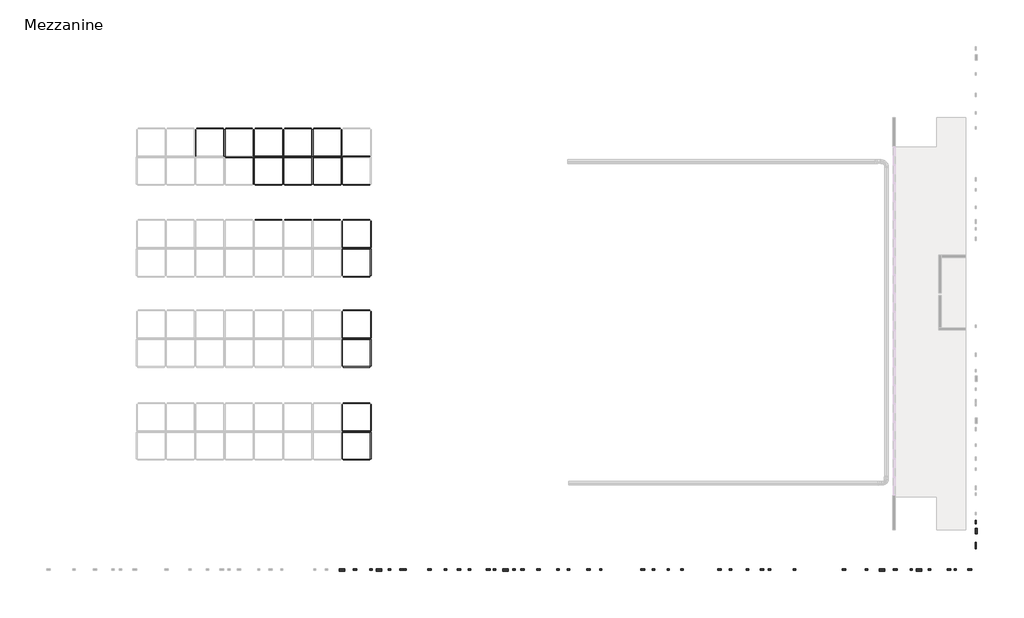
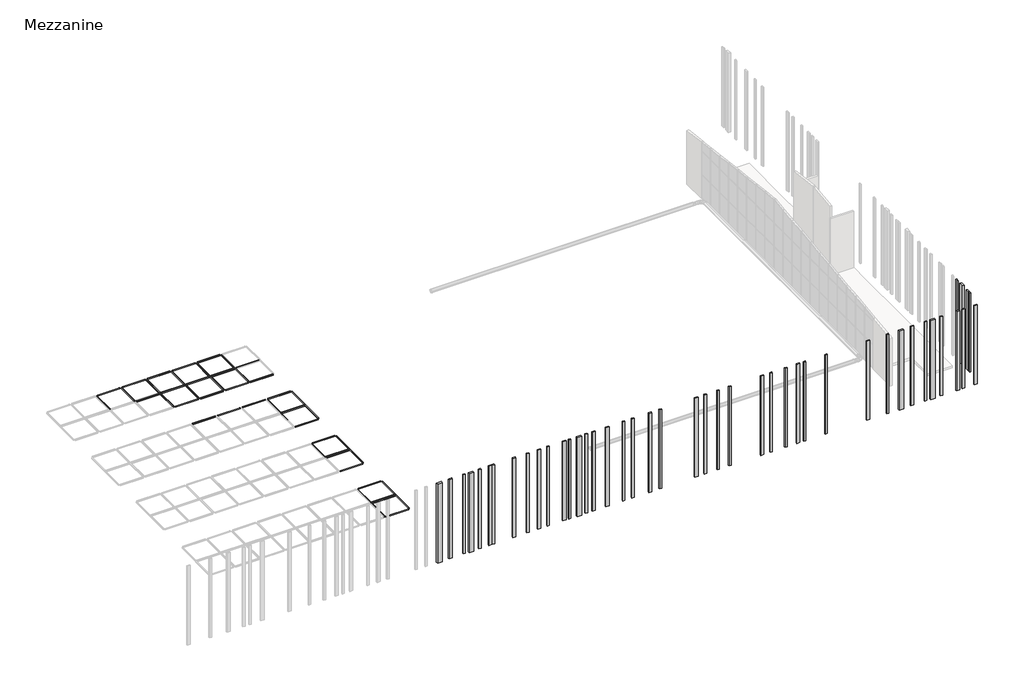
# One storey, part 5 of 7: 62 beams, 45 columns.
"""IFC4 building model written with IfcOpenShell, lengths in millimetres."""

from ifc_helpers import new_model, si_unit, frame, origin, place, context, project, spatial, polyline, outline, extrude, transform, mapped, element, save
from components import timber_gauged_nz_100_x_50_718b6390, timber_gauged_nz_100_x_50_7774ab14, timber_gauged_nz_100_x_50_7b7bee40, timber_gauged_nz_100_x_50_6be5a70a, columns_rectangular_200x200_white_1cd67d43, columns_rectangular_300x300_73db2975, columns_rectangular_450x450mm_7ab9ced3

model = new_model("IFC4")

# Units and contexts
model_context = context("Model", 3, world=origin())
ifc_project = project(units=[si_unit("LENGTHUNIT", "METRE", prefix="MILLI")], contexts=[model_context])

# Site, building, storey
site = spatial("IfcSite", under=ifc_project)
building = spatial("IfcBuilding", under=site)
storey = spatial("IfcBuildingStorey", under=building, Name="Mezzanine", Elevation=5800.0)

# Beams
placement = place(None, origin())
timber_gauged_nz_100_x_50_shape = timber_gauged_nz_100_x_50_718b6390(model_context)
element("IfcBeam", 1, ObjectType="Timber Gauged (NZ) : 100 x 50", at=placement, inside=storey, context=model_context, shape_type="MappedRepresentation", body=[
    mapped(timber_gauged_nz_100_x_50_shape, transform((-62818.8056755, -25111.9011548, 4853.0), x_axis=(1.0, 0.0, 0.0), y_axis=(0.0, 1.0, 0.0), z_axis=(0.0, 0.0, 1.0))),
])
element("IfcBeam", 2, ObjectType="Timber Gauged (NZ) : 100 x 50", at=placement, inside=storey, context=model_context, shape_type="MappedRepresentation", body=[
    mapped(timber_gauged_nz_100_x_50_shape, transform((-62791.8056755, -25182.1175809, 4853.0), x_axis=(-1.0, 0.0, 0.0), y_axis=(0.0, -1.0, 0.0), z_axis=(0.0, 0.0, 1.0))),
])
element("IfcBeam", 3, ObjectType="Timber Gauged (NZ) : 100 x 50", at=placement, inside=storey, context=model_context, shape_type="MappedRepresentation", body=[
    mapped(timber_gauged_nz_100_x_50_shape, transform((-62818.8056755, -17511.9011548, 4853.0), x_axis=(1.0, 0.0, 0.0), y_axis=(0.0, 1.0, 0.0), z_axis=(0.0, 0.0, 1.0))),
])
element("IfcBeam", 4, ObjectType="Timber Gauged (NZ) : 100 x 50", at=placement, inside=storey, context=model_context, shape_type="MappedRepresentation", body=[
    mapped(timber_gauged_nz_100_x_50_shape, transform((-62791.8056755, -17582.1175809, 4853.0), x_axis=(-1.0, 0.0, 0.0), y_axis=(0.0, -1.0, 0.0), z_axis=(0.0, 0.0, 1.0))),
])
element("IfcBeam", 5, ObjectType="Timber Gauged (NZ) : 100 x 50", at=placement, inside=storey, context=model_context, shape_type="MappedRepresentation", body=[
    mapped(timber_gauged_nz_100_x_50_shape, transform((-62818.8056755, -10111.9011548, 4853.0), x_axis=(1.0, 0.0, 0.0), y_axis=(0.0, 1.0, 0.0), z_axis=(0.0, 0.0, 1.0))),
])
element("IfcBeam", 6, ObjectType="Timber Gauged (NZ) : 100 x 50", at=placement, inside=storey, context=model_context, shape_type="MappedRepresentation", body=[
    mapped(timber_gauged_nz_100_x_50_shape, transform((-62791.8056755, -10182.1175809, 4853.0), x_axis=(-1.0, 0.0, 0.0), y_axis=(0.0, -1.0, 0.0), z_axis=(0.0, 0.0, 1.0))),
])
element("IfcBeam", 7, ObjectType="Timber Gauged (NZ) : 100 x 50", at=placement, inside=storey, context=model_context, shape_type="MappedRepresentation", body=[
    mapped(timber_gauged_nz_100_x_50_shape, transform((-70007.5056755, -2611.9011548, 4853.0), x_axis=(1.0, 0.0, 0.0), y_axis=(0.0, 1.0, 0.0), z_axis=(0.0, 0.0, 1.0))),
])
element("IfcBeam", 8, ObjectType="Timber Gauged (NZ) : 100 x 50", at=placement, inside=storey, context=model_context, shape_type="MappedRepresentation", body=[
    mapped(timber_gauged_nz_100_x_50_shape, transform((-67603.1556755, -2611.9011548, 4853.0), x_axis=(1.0, 0.0, 0.0), y_axis=(0.0, 1.0, 0.0), z_axis=(0.0, 0.0, 1.0))),
])
element("IfcBeam", 9, ObjectType="Timber Gauged (NZ) : 100 x 50", at=placement, inside=storey, context=model_context, shape_type="MappedRepresentation", body=[
    mapped(timber_gauged_nz_100_x_50_shape, transform((-65198.8056755, -2611.9011548, 4853.0), x_axis=(1.0, 0.0, 0.0), y_axis=(0.0, 1.0, 0.0), z_axis=(0.0, 0.0, 1.0))),
])
element("IfcBeam", 10, ObjectType="Timber Gauged (NZ) : 100 x 50", at=placement, inside=storey, context=model_context, shape_type="MappedRepresentation", body=[
    mapped(timber_gauged_nz_100_x_50_shape, transform((-62818.8056755, -2611.9011548, 4853.0), x_axis=(1.0, 0.0, 0.0), y_axis=(0.0, 1.0, 0.0), z_axis=(0.0, 0.0, 1.0))),
])
element("IfcBeam", 11, ObjectType="Timber Gauged (NZ) : 100 x 50", at=placement, inside=storey, context=model_context, shape_type="MappedRepresentation", body=[
    mapped(timber_gauged_nz_100_x_50_shape, transform((-65196.1556755, -2682.1175809, 4853.0), x_axis=(-1.0, 0.0, 0.0), y_axis=(0.0, -1.0, 0.0), z_axis=(0.0, 0.0, 1.0))),
])
element("IfcBeam", 12, ObjectType="Timber Gauged (NZ) : 100 x 50", at=placement, inside=storey, context=model_context, shape_type="MappedRepresentation", body=[
    mapped(timber_gauged_nz_100_x_50_shape, transform((-67591.8056755, -2682.1175809, 4853.0), x_axis=(-1.0, 0.0, 0.0), y_axis=(0.0, -1.0, 0.0), z_axis=(0.0, 0.0, 1.0))),
])
element("IfcBeam", 13, ObjectType="Timber Gauged (NZ) : 100 x 50", at=placement, inside=storey, context=model_context, shape_type="MappedRepresentation", body=[
    mapped(timber_gauged_nz_100_x_50_shape, transform((-69991.8056755, -2682.1175809, 4853.0), x_axis=(-1.0, 0.0, 0.0), y_axis=(0.0, -1.0, 0.0), z_axis=(0.0, 0.0, 1.0))),
])
element("IfcBeam", 14, ObjectType="Timber Gauged (NZ) : 100 x 50", at=placement, inside=storey, context=model_context, shape_type="MappedRepresentation", body=[
    mapped(timber_gauged_nz_100_x_50_shape, transform((-72391.8056755, -2682.1175809, 4853.0), x_axis=(-1.0, 0.0, 0.0), y_axis=(0.0, -1.0, 0.0), z_axis=(0.0, 0.0, 1.0))),
])
timber_gauged_nz_100_x_50_2_shape = timber_gauged_nz_100_x_50_7774ab14(model_context)
element("IfcBeam", 15, ObjectType="Timber Gauged (NZ) : 100 x 50", at=placement, inside=storey, context=model_context, shape_type="MappedRepresentation", body=[
    mapped(timber_gauged_nz_100_x_50_2_shape, transform((-62806.3056755, -27464.9011548, 4853.0), x_axis=(1.0, 0.0, 0.0), y_axis=(0.0, 1.0, 0.0), z_axis=(0.0, 0.0, 1.0))),
])
element("IfcBeam", 16, ObjectType="Timber Gauged (NZ) : 100 x 50", at=placement, inside=storey, context=model_context, shape_type="MappedRepresentation", body=[
    mapped(timber_gauged_nz_100_x_50_2_shape, transform((-62804.3056755, -22829.1175809, 4853.0), x_axis=(-1.0, 0.0, 0.0), y_axis=(0.0, -1.0, 0.0), z_axis=(0.0, 0.0, 1.0))),
])
element("IfcBeam", 17, ObjectType="Timber Gauged (NZ) : 100 x 50", at=placement, inside=storey, context=model_context, shape_type="MappedRepresentation", body=[
    mapped(timber_gauged_nz_100_x_50_2_shape, transform((-62806.3056755, -19864.9011548, 4853.0), x_axis=(1.0, 0.0, 0.0), y_axis=(0.0, 1.0, 0.0), z_axis=(0.0, 0.0, 1.0))),
])
element("IfcBeam", 18, ObjectType="Timber Gauged (NZ) : 100 x 50", at=placement, inside=storey, context=model_context, shape_type="MappedRepresentation", body=[
    mapped(timber_gauged_nz_100_x_50_2_shape, transform((-62804.3056755, -15229.1175809, 4853.0), x_axis=(-1.0, 0.0, 0.0), y_axis=(0.0, -1.0, 0.0), z_axis=(0.0, 0.0, 1.0))),
])
element("IfcBeam", 19, ObjectType="Timber Gauged (NZ) : 100 x 50", at=placement, inside=storey, context=model_context, shape_type="MappedRepresentation", body=[
    mapped(timber_gauged_nz_100_x_50_2_shape, transform((-62806.3056755, -12464.9011548, 4853.0), x_axis=(1.0, 0.0, 0.0), y_axis=(0.0, 1.0, 0.0), z_axis=(0.0, 0.0, 1.0))),
])
element("IfcBeam", 20, ObjectType="Timber Gauged (NZ) : 100 x 50", at=placement, inside=storey, context=model_context, shape_type="MappedRepresentation", body=[
    mapped(timber_gauged_nz_100_x_50_2_shape, transform((-62804.3056755, -7829.1175809, 4853.0), x_axis=(-1.0, 0.0, 0.0), y_axis=(0.0, -1.0, 0.0), z_axis=(0.0, 0.0, 1.0))),
])
element("IfcBeam", 21, ObjectType="Timber Gauged (NZ) : 100 x 50", at=placement, inside=storey, context=model_context, shape_type="MappedRepresentation", body=[
    mapped(timber_gauged_nz_100_x_50_2_shape, transform((-65208.6556755, -7829.1175809, 4853.0), x_axis=(-1.0, 0.0, 0.0), y_axis=(0.0, -1.0, 0.0), z_axis=(0.0, 0.0, 1.0))),
])
element("IfcBeam", 22, ObjectType="Timber Gauged (NZ) : 100 x 50", at=placement, inside=storey, context=model_context, shape_type="MappedRepresentation", body=[
    mapped(timber_gauged_nz_100_x_50_2_shape, transform((-67604.3056755, -7829.1175809, 4853.0), x_axis=(-1.0, 0.0, 0.0), y_axis=(0.0, -1.0, 0.0), z_axis=(0.0, 0.0, 1.0))),
])
element("IfcBeam", 23, ObjectType="Timber Gauged (NZ) : 100 x 50", at=placement, inside=storey, context=model_context, shape_type="MappedRepresentation", body=[
    mapped(timber_gauged_nz_100_x_50_2_shape, transform((-70004.3056755, -7829.1175809, 4853.0), x_axis=(-1.0, 0.0, 0.0), y_axis=(0.0, -1.0, 0.0), z_axis=(0.0, 0.0, 1.0))),
])
element("IfcBeam", 24, ObjectType="Timber Gauged (NZ) : 100 x 50", at=placement, inside=storey, context=model_context, shape_type="MappedRepresentation", body=[
    mapped(timber_gauged_nz_100_x_50_2_shape, transform((-69995.0056755, -4964.9011548, 4853.0), x_axis=(1.0, 0.0, 0.0), y_axis=(0.0, 1.0, 0.0), z_axis=(0.0, 0.0, 1.0))),
])
element("IfcBeam", 25, ObjectType="Timber Gauged (NZ) : 100 x 50", at=placement, inside=storey, context=model_context, shape_type="MappedRepresentation", body=[
    mapped(timber_gauged_nz_100_x_50_2_shape, transform((-67590.6556755, -4964.9011548, 4853.0), x_axis=(1.0, 0.0, 0.0), y_axis=(0.0, 1.0, 0.0), z_axis=(0.0, 0.0, 1.0))),
])
element("IfcBeam", 26, ObjectType="Timber Gauged (NZ) : 100 x 50", at=placement, inside=storey, context=model_context, shape_type="MappedRepresentation", body=[
    mapped(timber_gauged_nz_100_x_50_2_shape, transform((-65186.3056755, -4964.9011548, 4853.0), x_axis=(1.0, 0.0, 0.0), y_axis=(0.0, 1.0, 0.0), z_axis=(0.0, 0.0, 1.0))),
])
element("IfcBeam", 27, ObjectType="Timber Gauged (NZ) : 100 x 50", at=placement, inside=storey, context=model_context, shape_type="MappedRepresentation", body=[
    mapped(timber_gauged_nz_100_x_50_2_shape, transform((-62806.3056755, -4964.9011548, 4853.0), x_axis=(1.0, 0.0, 0.0), y_axis=(0.0, 1.0, 0.0), z_axis=(0.0, 0.0, 1.0))),
])
element("IfcBeam", 28, ObjectType="Timber Gauged (NZ) : 100 x 50", at=placement, inside=storey, context=model_context, shape_type="MappedRepresentation", body=[
    mapped(timber_gauged_nz_100_x_50_2_shape, transform((-65208.6556755, -329.1175809, 4853.0), x_axis=(-1.0, 0.0, 0.0), y_axis=(0.0, -1.0, 0.0), z_axis=(0.0, 0.0, 1.0))),
])
element("IfcBeam", 29, ObjectType="Timber Gauged (NZ) : 100 x 50", at=placement, inside=storey, context=model_context, shape_type="MappedRepresentation", body=[
    mapped(timber_gauged_nz_100_x_50_2_shape, transform((-67604.3056755, -329.1175809, 4853.0), x_axis=(-1.0, 0.0, 0.0), y_axis=(0.0, -1.0, 0.0), z_axis=(0.0, 0.0, 1.0))),
])
element("IfcBeam", 30, ObjectType="Timber Gauged (NZ) : 100 x 50", at=placement, inside=storey, context=model_context, shape_type="MappedRepresentation", body=[
    mapped(timber_gauged_nz_100_x_50_2_shape, transform((-70004.3056755, -329.1175809, 4853.0), x_axis=(-1.0, 0.0, 0.0), y_axis=(0.0, -1.0, 0.0), z_axis=(0.0, 0.0, 1.0))),
])
element("IfcBeam", 31, ObjectType="Timber Gauged (NZ) : 100 x 50", at=placement, inside=storey, context=model_context, shape_type="MappedRepresentation", body=[
    mapped(timber_gauged_nz_100_x_50_2_shape, transform((-72404.3056755, -329.1175809, 4853.0), x_axis=(-1.0, 0.0, 0.0), y_axis=(0.0, -1.0, 0.0), z_axis=(0.0, 0.0, 1.0))),
])
element("IfcBeam", 32, ObjectType="Timber Gauged (NZ) : 100 x 50", at=placement, inside=storey, context=model_context, shape_type="MappedRepresentation", body=[
    mapped(timber_gauged_nz_100_x_50_2_shape, transform((-74808.6556755, -329.1175809, 4853.0), x_axis=(-1.0, 0.0, 0.0), y_axis=(0.0, -1.0, 0.0), z_axis=(0.0, 0.0, 1.0))),
])
timber_gauged_nz_100_x_50_3_shape = timber_gauged_nz_100_x_50_7b7bee40(model_context)
element("IfcBeam", 33, ObjectType="Timber Gauged (NZ) : 100 x 50", at=placement, inside=storey, context=model_context, shape_type="MappedRepresentation", body=[
    mapped(timber_gauged_nz_100_x_50_3_shape, transform((-63987.4556755, -26344.9011548, 4853.0), x_axis=(0.0, -1.0, 0.0), y_axis=(1.0, 0.0, 0.0), z_axis=(0.0, 0.0, 1.0))),
])
element("IfcBeam", 34, ObjectType="Timber Gauged (NZ) : 100 x 50", at=placement, inside=storey, context=model_context, shape_type="MappedRepresentation", body=[
    mapped(timber_gauged_nz_100_x_50_3_shape, transform((-61623.1556755, -23949.1175809, 4853.0), x_axis=(0.0, 1.0, 0.0), y_axis=(-1.0, 0.0, 0.0), z_axis=(0.0, 0.0, 1.0))),
])
element("IfcBeam", 35, ObjectType="Timber Gauged (NZ) : 100 x 50", at=placement, inside=storey, context=model_context, shape_type="MappedRepresentation", body=[
    mapped(timber_gauged_nz_100_x_50_3_shape, transform((-63987.4556755, -18744.9011548, 4853.0), x_axis=(0.0, -1.0, 0.0), y_axis=(1.0, 0.0, 0.0), z_axis=(0.0, 0.0, 1.0))),
])
element("IfcBeam", 36, ObjectType="Timber Gauged (NZ) : 100 x 50", at=placement, inside=storey, context=model_context, shape_type="MappedRepresentation", body=[
    mapped(timber_gauged_nz_100_x_50_3_shape, transform((-61623.1556755, -16349.1175809, 4853.0), x_axis=(0.0, 1.0, 0.0), y_axis=(-1.0, 0.0, 0.0), z_axis=(0.0, 0.0, 1.0))),
])
element("IfcBeam", 37, ObjectType="Timber Gauged (NZ) : 100 x 50", at=placement, inside=storey, context=model_context, shape_type="MappedRepresentation", body=[
    mapped(timber_gauged_nz_100_x_50_3_shape, transform((-63987.4556755, -11344.9011548, 4853.0), x_axis=(0.0, -1.0, 0.0), y_axis=(1.0, 0.0, 0.0), z_axis=(0.0, 0.0, 1.0))),
])
element("IfcBeam", 38, ObjectType="Timber Gauged (NZ) : 100 x 50", at=placement, inside=storey, context=model_context, shape_type="MappedRepresentation", body=[
    mapped(timber_gauged_nz_100_x_50_3_shape, transform((-61623.1556755, -8949.1175809, 4853.0), x_axis=(0.0, 1.0, 0.0), y_axis=(-1.0, 0.0, 0.0), z_axis=(0.0, 0.0, 1.0))),
])
element("IfcBeam", 39, ObjectType="Timber Gauged (NZ) : 100 x 50", at=placement, inside=storey, context=model_context, shape_type="MappedRepresentation", body=[
    mapped(timber_gauged_nz_100_x_50_3_shape, transform((-71176.1556755, -3844.9011548, 4853.0), x_axis=(0.0, -1.0, 0.0), y_axis=(1.0, 0.0, 0.0), z_axis=(0.0, 0.0, 1.0))),
])
element("IfcBeam", 40, ObjectType="Timber Gauged (NZ) : 100 x 50", at=placement, inside=storey, context=model_context, shape_type="MappedRepresentation", body=[
    mapped(timber_gauged_nz_100_x_50_3_shape, transform((-68771.8056755, -3844.9011548, 4853.0), x_axis=(0.0, -1.0, 0.0), y_axis=(1.0, 0.0, 0.0), z_axis=(0.0, 0.0, 1.0))),
])
element("IfcBeam", 41, ObjectType="Timber Gauged (NZ) : 100 x 50", at=placement, inside=storey, context=model_context, shape_type="MappedRepresentation", body=[
    mapped(timber_gauged_nz_100_x_50_3_shape, transform((-66367.4556755, -3844.9011548, 4853.0), x_axis=(0.0, -1.0, 0.0), y_axis=(1.0, 0.0, 0.0), z_axis=(0.0, 0.0, 1.0))),
])
element("IfcBeam", 42, ObjectType="Timber Gauged (NZ) : 100 x 50", at=placement, inside=storey, context=model_context, shape_type="MappedRepresentation", body=[
    mapped(timber_gauged_nz_100_x_50_3_shape, transform((-63987.4556755, -3844.9011548, 4853.0), x_axis=(0.0, -1.0, 0.0), y_axis=(1.0, 0.0, 0.0), z_axis=(0.0, 0.0, 1.0))),
])
element("IfcBeam", 43, ObjectType="Timber Gauged (NZ) : 100 x 50", at=placement, inside=storey, context=model_context, shape_type="MappedRepresentation", body=[
    mapped(timber_gauged_nz_100_x_50_3_shape, transform((-64027.5056755, -1449.1175809, 4853.0), x_axis=(0.0, 1.0, 0.0), y_axis=(-1.0, 0.0, 0.0), z_axis=(0.0, 0.0, 1.0))),
])
element("IfcBeam", 44, ObjectType="Timber Gauged (NZ) : 100 x 50", at=placement, inside=storey, context=model_context, shape_type="MappedRepresentation", body=[
    mapped(timber_gauged_nz_100_x_50_3_shape, transform((-66423.1556755, -1449.1175809, 4853.0), x_axis=(0.0, 1.0, 0.0), y_axis=(-1.0, 0.0, 0.0), z_axis=(0.0, 0.0, 1.0))),
])
element("IfcBeam", 45, ObjectType="Timber Gauged (NZ) : 100 x 50", at=placement, inside=storey, context=model_context, shape_type="MappedRepresentation", body=[
    mapped(timber_gauged_nz_100_x_50_3_shape, transform((-68823.1556755, -1449.1175809, 4853.0), x_axis=(0.0, 1.0, 0.0), y_axis=(-1.0, 0.0, 0.0), z_axis=(0.0, 0.0, 1.0))),
])
element("IfcBeam", 46, ObjectType="Timber Gauged (NZ) : 100 x 50", at=placement, inside=storey, context=model_context, shape_type="MappedRepresentation", body=[
    mapped(timber_gauged_nz_100_x_50_3_shape, transform((-71223.1556755, -1449.1175809, 4853.0), x_axis=(0.0, 1.0, 0.0), y_axis=(-1.0, 0.0, 0.0), z_axis=(0.0, 0.0, 1.0))),
])
element("IfcBeam", 47, ObjectType="Timber Gauged (NZ) : 100 x 50", at=placement, inside=storey, context=model_context, shape_type="MappedRepresentation", body=[
    mapped(timber_gauged_nz_100_x_50_3_shape, transform((-73627.5056755, -1449.1175809, 4853.0), x_axis=(0.0, 1.0, 0.0), y_axis=(-1.0, 0.0, 0.0), z_axis=(0.0, 0.0, 1.0))),
])
timber_gauged_nz_100_x_50_4_shape = timber_gauged_nz_100_x_50_6be5a70a(model_context)
element("IfcBeam", 48, ObjectType="Timber Gauged (NZ) : 100 x 50", at=placement, inside=storey, context=model_context, shape_type="MappedRepresentation", body=[
    mapped(timber_gauged_nz_100_x_50_4_shape, transform((-61634.4556755, -26264.7011548, 4853.0), x_axis=(0.0, -1.0, 0.0), y_axis=(1.0, 0.0, 0.0), z_axis=(0.0, 0.0, 1.0))),
])
element("IfcBeam", 49, ObjectType="Timber Gauged (NZ) : 100 x 50", at=placement, inside=storey, context=model_context, shape_type="MappedRepresentation", body=[
    mapped(timber_gauged_nz_100_x_50_4_shape, transform((-63976.1556755, -24029.3175809, 4853.0), x_axis=(0.0, 1.0, 0.0), y_axis=(-1.0, 0.0, 0.0), z_axis=(0.0, 0.0, 1.0))),
])
element("IfcBeam", 50, ObjectType="Timber Gauged (NZ) : 100 x 50", at=placement, inside=storey, context=model_context, shape_type="MappedRepresentation", body=[
    mapped(timber_gauged_nz_100_x_50_4_shape, transform((-61634.4556755, -18664.7011548, 4853.0), x_axis=(0.0, -1.0, 0.0), y_axis=(1.0, 0.0, 0.0), z_axis=(0.0, 0.0, 1.0))),
])
element("IfcBeam", 51, ObjectType="Timber Gauged (NZ) : 100 x 50", at=placement, inside=storey, context=model_context, shape_type="MappedRepresentation", body=[
    mapped(timber_gauged_nz_100_x_50_4_shape, transform((-63976.1556755, -16429.3175809, 4853.0), x_axis=(0.0, 1.0, 0.0), y_axis=(-1.0, 0.0, 0.0), z_axis=(0.0, 0.0, 1.0))),
])
element("IfcBeam", 52, ObjectType="Timber Gauged (NZ) : 100 x 50", at=placement, inside=storey, context=model_context, shape_type="MappedRepresentation", body=[
    mapped(timber_gauged_nz_100_x_50_4_shape, transform((-61634.4556755, -11264.7011548, 4853.0), x_axis=(0.0, -1.0, 0.0), y_axis=(1.0, 0.0, 0.0), z_axis=(0.0, 0.0, 1.0))),
])
element("IfcBeam", 53, ObjectType="Timber Gauged (NZ) : 100 x 50", at=placement, inside=storey, context=model_context, shape_type="MappedRepresentation", body=[
    mapped(timber_gauged_nz_100_x_50_4_shape, transform((-63976.1556755, -9029.3175809, 4853.0), x_axis=(0.0, 1.0, 0.0), y_axis=(-1.0, 0.0, 0.0), z_axis=(0.0, 0.0, 1.0))),
])
element("IfcBeam", 54, ObjectType="Timber Gauged (NZ) : 100 x 50", at=placement, inside=storey, context=model_context, shape_type="MappedRepresentation", body=[
    mapped(timber_gauged_nz_100_x_50_4_shape, transform((-71223.1556755, -3764.7011548, 4853.0), x_axis=(0.0, -1.0, 0.0), y_axis=(1.0, 0.0, 0.0), z_axis=(0.0, 0.0, 1.0))),
])
element("IfcBeam", 55, ObjectType="Timber Gauged (NZ) : 100 x 50", at=placement, inside=storey, context=model_context, shape_type="MappedRepresentation", body=[
    mapped(timber_gauged_nz_100_x_50_4_shape, transform((-68823.1556755, -3764.7011548, 4853.0), x_axis=(0.0, -1.0, 0.0), y_axis=(1.0, 0.0, 0.0), z_axis=(0.0, 0.0, 1.0))),
])
element("IfcBeam", 56, ObjectType="Timber Gauged (NZ) : 100 x 50", at=placement, inside=storey, context=model_context, shape_type="MappedRepresentation", body=[
    mapped(timber_gauged_nz_100_x_50_4_shape, transform((-66418.8056755, -3764.7011548, 4853.0), x_axis=(0.0, -1.0, 0.0), y_axis=(1.0, 0.0, 0.0), z_axis=(0.0, 0.0, 1.0))),
])
element("IfcBeam", 57, ObjectType="Timber Gauged (NZ) : 100 x 50", at=placement, inside=storey, context=model_context, shape_type="MappedRepresentation", body=[
    mapped(timber_gauged_nz_100_x_50_4_shape, transform((-64014.4556755, -3764.7011548, 4853.0), x_axis=(0.0, -1.0, 0.0), y_axis=(1.0, 0.0, 0.0), z_axis=(0.0, 0.0, 1.0))),
])
element("IfcBeam", 58, ObjectType="Timber Gauged (NZ) : 100 x 50", at=placement, inside=storey, context=model_context, shape_type="MappedRepresentation", body=[
    mapped(timber_gauged_nz_100_x_50_4_shape, transform((-66380.5056755, -1529.3175809, 4853.0), x_axis=(0.0, 1.0, 0.0), y_axis=(-1.0, 0.0, 0.0), z_axis=(0.0, 0.0, 1.0))),
])
element("IfcBeam", 59, ObjectType="Timber Gauged (NZ) : 100 x 50", at=placement, inside=storey, context=model_context, shape_type="MappedRepresentation", body=[
    mapped(timber_gauged_nz_100_x_50_4_shape, transform((-68776.1556755, -1529.3175809, 4853.0), x_axis=(0.0, 1.0, 0.0), y_axis=(-1.0, 0.0, 0.0), z_axis=(0.0, 0.0, 1.0))),
])
element("IfcBeam", 60, ObjectType="Timber Gauged (NZ) : 100 x 50", at=placement, inside=storey, context=model_context, shape_type="MappedRepresentation", body=[
    mapped(timber_gauged_nz_100_x_50_4_shape, transform((-71176.1556755, -1529.3175809, 4853.0), x_axis=(0.0, 1.0, 0.0), y_axis=(-1.0, 0.0, 0.0), z_axis=(0.0, 0.0, 1.0))),
])
element("IfcBeam", 61, ObjectType="Timber Gauged (NZ) : 100 x 50", at=placement, inside=storey, context=model_context, shape_type="MappedRepresentation", body=[
    mapped(timber_gauged_nz_100_x_50_4_shape, transform((-73576.1556755, -1529.3175809, 4853.0), x_axis=(0.0, 1.0, 0.0), y_axis=(-1.0, 0.0, 0.0), z_axis=(0.0, 0.0, 1.0))),
])
element("IfcBeam", 62, ObjectType="Timber Gauged (NZ) : 100 x 50", at=placement, inside=storey, context=model_context, shape_type="MappedRepresentation", body=[
    mapped(timber_gauged_nz_100_x_50_4_shape, transform((-75980.5056755, -1529.3175809, 4853.0), x_axis=(0.0, 1.0, 0.0), y_axis=(-1.0, 0.0, 0.0), z_axis=(0.0, 0.0, 1.0))),
])

# Columns
element("IfcColumn", 63, ObjectType="Columns_Rectangular : 200x200", at=placement, inside=storey, context=model_context, shape_type="SweptSolid", body=[
    extrude(outline(polyline([(-61716.5322209, -36405.9222204), (-61516.5322209, -36405.9222204), (-61516.5322209, -36505.9222204), (-61716.5322209, -36505.9222204), (-61716.5322209, -36405.9222204)])), frame((0.0, 0.0, 5800.0), z_axis=(0.0, 0.0, 1.0), x_axis=(1.0, 0.0, 0.0)), (0.0, 0.0, 1.0), 8000.0),
])
element("IfcColumn", 64, ObjectType="Columns_Rectangular : 200x200", at=placement, inside=storey, context=model_context, shape_type="SweptSolid", body=[
    extrude(outline(polyline([(-60216.5322209, -36405.9222204), (-60016.5322209, -36405.9222204), (-60016.5322209, -36505.9222204), (-60216.5322209, -36505.9222204), (-60216.5322209, -36405.9222204)])), frame((0.0, 0.0, 5800.0), z_axis=(0.0, 0.0, 1.0), x_axis=(1.0, 0.0, 0.0)), (0.0, 0.0, 1.0), 8000.0),
])
element("IfcColumn", 65, ObjectType="Columns_Rectangular : 200x200", at=placement, inside=storey, context=model_context, shape_type="SweptSolid", body=[
    extrude(outline(polyline([(-58916.5322209, -36405.9222204), (-58716.5322209, -36405.9222204), (-58716.5322209, -36505.9222204), (-58916.5322209, -36505.9222204), (-58916.5322209, -36405.9222204)])), frame((0.0, 0.0, 5800.0), z_axis=(0.0, 0.0, 1.0), x_axis=(1.0, 0.0, 0.0)), (0.0, 0.0, 1.0), 8000.0),
])
element("IfcColumn", 66, ObjectType="Columns_Rectangular : 200x200", at=placement, inside=storey, context=model_context, shape_type="SweptSolid", body=[
    extrude(outline(polyline([(-55616.5322209, -36405.9222204), (-55416.5322209, -36405.9222204), (-55416.5322209, -36505.9222204), (-55616.5322209, -36505.9222204), (-55616.5322209, -36405.9222204)])), frame((0.0, 0.0, 5800.0), z_axis=(0.0, 0.0, 1.0), x_axis=(1.0, 0.0, 0.0)), (0.0, 0.0, 1.0), 8000.0),
])
element("IfcColumn", 67, ObjectType="Columns_Rectangular : 200x200", at=placement, inside=storey, context=model_context, shape_type="SweptSolid", body=[
    extrude(outline(polyline([(-51616.5322209, -36405.9222204), (-51416.5322209, -36405.9222204), (-51416.5322209, -36505.9222204), (-51616.5322209, -36505.9222204), (-51616.5322209, -36405.9222204)])), frame((0.0, 0.0, 5800.0), z_axis=(0.0, 0.0, 1.0), x_axis=(1.0, 0.0, 0.0)), (0.0, 0.0, 1.0), 8000.0),
])
element("IfcColumn", 68, ObjectType="Columns_Rectangular : 200x200", at=placement, inside=storey, context=model_context, shape_type="SweptSolid", body=[
    extrude(outline(polyline([(-50016.5322209, -36405.9222204), (-49816.5322209, -36405.9222204), (-49816.5322209, -36505.9222204), (-50016.5322209, -36505.9222204), (-50016.5322209, -36405.9222204)])), frame((0.0, 0.0, 5800.0), z_axis=(0.0, 0.0, 1.0), x_axis=(1.0, 0.0, 0.0)), (0.0, 0.0, 1.0), 8000.0),
])
element("IfcColumn", 69, ObjectType="Columns_Rectangular : 200x200", at=placement, inside=storey, context=model_context, shape_type="SweptSolid", body=[
    extrude(outline(polyline([(-46430.3056755, -36405.9222204), (-46230.3056755, -36405.9222204), (-46230.3056755, -36505.9222204), (-46430.3056755, -36505.9222204), (-46430.3056755, -36405.9222204)])), frame((0.0, 0.0, 5800.0), z_axis=(0.0, 0.0, 1.0), x_axis=(1.0, 0.0, 0.0)), (0.0, 0.0, 1.0), 8000.0),
])
element("IfcColumn", 70, ObjectType="Columns_Rectangular : 200x200", at=placement, inside=storey, context=model_context, shape_type="SweptSolid", body=[
    extrude(outline(polyline([(-12200.7705062, -34568.4199596), (-12100.7705062, -34568.4199596), (-12100.7705062, -34768.4199596), (-12200.7705062, -34768.4199596), (-12200.7705062, -34568.4199596)])), frame((0.0, 0.0, 5800.0), z_axis=(0.0, 0.0, 1.0), x_axis=(1.0, 0.0, 0.0)), (0.0, 0.0, 1.0), 8000.0),
])
element("IfcColumn", 71, ObjectType="Columns_Rectangular : 200x200", at=placement, inside=storey, context=model_context, shape_type="SweptSolid", body=[
    extrude(outline(polyline([(-42916.5322209, -36405.9199596), (-42716.5322209, -36405.9199596), (-42716.5322209, -36505.9199596), (-42916.5322209, -36505.9199596), (-42916.5322209, -36405.9199596)])), frame((0.0, 0.0, 5800.0), z_axis=(0.0, 0.0, 1.0), x_axis=(1.0, 0.0, 0.0)), (0.0, 0.0, 1.0), 8000.0),
])
columns_rectangular_200x200_white_shape = columns_rectangular_200x200_white_1cd67d43(model_context)
element("IfcColumn", 72, ObjectType="Columns_Rectangular : 200x200", at=placement, inside=storey, context=model_context, shape_type="MappedRepresentation", body=[
    mapped(columns_rectangular_200x200_white_shape, transform((-17416.5322209, -36458.8343034, 0.0), x_axis=(0.0, 1.0, 0.0), y_axis=(-1.0, 0.0, 0.0), z_axis=(0.0, 0.0, 1.0))),
])
element("IfcColumn", 73, ObjectType="Columns_Rectangular : 200x200", at=placement, inside=storey, context=model_context, shape_type="MappedRepresentation", body=[
    mapped(columns_rectangular_200x200_white_shape, transform((-15916.5322209, -36458.8343034, 0.0), x_axis=(0.0, 1.0, 0.0), y_axis=(-1.0, 0.0, 0.0), z_axis=(0.0, 0.0, 1.0))),
])
element("IfcColumn", 74, ObjectType="Columns_Rectangular : 200x200", at=placement, inside=storey, context=model_context, shape_type="MappedRepresentation", body=[
    mapped(columns_rectangular_200x200_white_shape, transform((-13816.5322209, -36458.8343034, 0.0), x_axis=(0.0, 1.0, 0.0), y_axis=(-1.0, 0.0, 0.0), z_axis=(0.0, 0.0, 1.0))),
])
element("IfcColumn", 75, ObjectType="Columns_Rectangular : 200x200", at=placement, inside=storey, context=model_context, shape_type="MappedRepresentation", body=[
    mapped(columns_rectangular_200x200_white_shape, transform((-29016.5322209, -36458.8343034, 0.0), x_axis=(0.0, 1.0, 0.0), y_axis=(-1.0, 0.0, 0.0), z_axis=(0.0, 0.0, 1.0))),
])
element("IfcColumn", 76, ObjectType="Columns_Rectangular : 200x200", at=placement, inside=storey, context=model_context, shape_type="MappedRepresentation", body=[
    mapped(columns_rectangular_200x200_white_shape, transform((-32216.5322209, -36458.8343034, 0.0), x_axis=(0.0, 1.0, 0.0), y_axis=(-1.0, 0.0, 0.0), z_axis=(0.0, 0.0, 1.0))),
])
element("IfcColumn", 77, ObjectType="Columns_Rectangular : 200x200", at=placement, inside=storey, context=model_context, shape_type="MappedRepresentation", body=[
    mapped(columns_rectangular_200x200_white_shape, transform((-38516.5322209, -36458.8343034, 0.0), x_axis=(0.0, 1.0, 0.0), y_axis=(-1.0, 0.0, 0.0), z_axis=(0.0, 0.0, 1.0))),
])
element("IfcColumn", 78, ObjectType="Columns_Rectangular : 200x200 white", at=placement, inside=storey, context=model_context, shape_type="SweptSolid", body=[
    extrude(outline(polyline([(-53660.3775124, -36405.9222204), (-53460.3775124, -36405.9222204), (-53460.3775124, -36505.9222204), (-53660.3775124, -36505.9222204), (-53660.3775124, -36405.9222204)])), frame((0.0, 0.0, 5800.0), z_axis=(0.0, 0.0, 1.0), x_axis=(1.0, 0.0, 0.0)), (0.0, 0.0, 1.0), 8000.0),
])
element("IfcColumn", 79, ObjectType="Columns_Rectangular : 200x200 white", at=placement, inside=storey, context=model_context, shape_type="SweptSolid", body=[
    extrude(outline(polyline([(-45559.8408447, -36405.9199596), (-45359.8408447, -36405.9199596), (-45359.8408447, -36505.9199596), (-45559.8408447, -36505.9199596), (-45559.8408447, -36405.9199596)])), frame((0.0, 0.0, 5800.0), z_axis=(0.0, 0.0, 1.0), x_axis=(1.0, 0.0, 0.0)), (0.0, 0.0, 1.0), 8000.0),
])
element("IfcColumn", 80, ObjectType="Columns_Rectangular : 200x200 white", at=placement, inside=storey, context=model_context, shape_type="MappedRepresentation", body=[
    mapped(columns_rectangular_200x200_white_shape, transform((-21062.9172925, -36458.8343034, 0.0), x_axis=(0.0, 1.0, 0.0), y_axis=(-1.0, 0.0, 0.0), z_axis=(0.0, 0.0, 1.0))),
])
element("IfcColumn", 81, ObjectType="Columns_Rectangular : 200x200 white", at=placement, inside=storey, context=model_context, shape_type="MappedRepresentation", body=[
    mapped(columns_rectangular_200x200_white_shape, transform((-36162.6705145, -36456.6155006, 0.0), x_axis=(0.0, 1.0, 0.0), y_axis=(-1.0, 0.0, 0.0), z_axis=(0.0, 0.0, 1.0))),
])
element("IfcColumn", 82, ObjectType="Columns_Rectangular : 200x200 white", at=placement, inside=storey, context=model_context, shape_type="MappedRepresentation", body=[
    mapped(columns_rectangular_200x200_white_shape, transform((-37297.9011468, -36458.8343034, 0.0), x_axis=(0.0, 1.0, 0.0), y_axis=(-1.0, 0.0, 0.0), z_axis=(0.0, 0.0, 1.0))),
])
element("IfcColumn", 83, ObjectType="Columns_Rectangular : 200x200 white", at=placement, inside=storey, context=model_context, shape_type="MappedRepresentation", body=[
    mapped(columns_rectangular_200x200_white_shape, transform((-30797.9977767, -36458.8343034, 0.0), x_axis=(0.0, 1.0, 0.0), y_axis=(-1.0, 0.0, 0.0), z_axis=(0.0, 0.0, 1.0))),
])
element("IfcColumn", 84, ObjectType="Columns_Rectangular : 200x200 white", at=placement, inside=storey, context=model_context, shape_type="MappedRepresentation", body=[
    mapped(columns_rectangular_200x200_white_shape, transform((-26960.9339353, -36458.8343034, 0.0), x_axis=(0.0, 1.0, 0.0), y_axis=(-1.0, 0.0, 0.0), z_axis=(0.0, 0.0, 1.0))),
])
element("IfcColumn", 85, ObjectType="Columns_Rectangular : 300x300", at=placement, inside=storey, context=model_context, shape_type="SweptSolid", body=[
    extrude(outline(polyline([(-63076.0599455, -36405.9222204), (-62776.0599455, -36405.9222204), (-62776.0599455, -36505.9222204), (-63076.0599455, -36505.9222204), (-63076.0599455, -36405.9222204)])), frame((0.0, 0.0, 5800.0), z_axis=(0.0, 0.0, 1.0), x_axis=(1.0, 0.0, 0.0)), (0.0, 0.0, 1.0), 8000.0),
])
element("IfcColumn", 86, ObjectType="Columns_Rectangular : 300x300", at=placement, inside=storey, context=model_context, shape_type="SweptSolid", body=[
    extrude(outline(polyline([(-59276.0599455, -36405.9222204), (-58976.0599455, -36405.9222204), (-58976.0599455, -36505.9222204), (-59276.0599455, -36505.9222204), (-59276.0599455, -36405.9222204)])), frame((0.0, 0.0, 5800.0), z_axis=(0.0, 0.0, 1.0), x_axis=(1.0, 0.0, 0.0)), (0.0, 0.0, 1.0), 8000.0),
])
element("IfcColumn", 87, ObjectType="Columns_Rectangular : 300x300", at=placement, inside=storey, context=model_context, shape_type="SweptSolid", body=[
    extrude(outline(polyline([(-56976.0599455, -36405.9222204), (-56676.0599455, -36405.9222204), (-56676.0599455, -36505.9222204), (-56976.0599455, -36505.9222204), (-56976.0599455, -36405.9222204)])), frame((0.0, 0.0, 5800.0), z_axis=(0.0, 0.0, 1.0), x_axis=(1.0, 0.0, 0.0)), (0.0, 0.0, 1.0), 8000.0),
])
element("IfcColumn", 88, ObjectType="Columns_Rectangular : 300x300", at=placement, inside=storey, context=model_context, shape_type="SweptSolid", body=[
    extrude(outline(polyline([(-54576.0599455, -36405.9222204), (-54276.0599455, -36405.9222204), (-54276.0599455, -36505.9222204), (-54576.0599455, -36505.9222204), (-54576.0599455, -36405.9222204)])), frame((0.0, 0.0, 5800.0), z_axis=(0.0, 0.0, 1.0), x_axis=(1.0, 0.0, 0.0)), (0.0, 0.0, 1.0), 8000.0),
])
element("IfcColumn", 89, ObjectType="Columns_Rectangular : 300x300", at=placement, inside=storey, context=model_context, shape_type="SweptSolid", body=[
    extrude(outline(polyline([(-52176.0599455, -36405.9222204), (-51876.0599455, -36405.9222204), (-51876.0599455, -36505.9222204), (-52176.0599455, -36505.9222204), (-52176.0599455, -36405.9222204)])), frame((0.0, 0.0, 5800.0), z_axis=(0.0, 0.0, 1.0), x_axis=(1.0, 0.0, 0.0)), (0.0, 0.0, 1.0), 8000.0),
])
element("IfcColumn", 90, ObjectType="Columns_Rectangular : 300x300", at=placement, inside=storey, context=model_context, shape_type="SweptSolid", body=[
    extrude(outline(polyline([(-49376.0599455, -36405.9222204), (-49076.0599455, -36405.9222204), (-49076.0599455, -36505.9222204), (-49376.0599455, -36505.9222204), (-49376.0599455, -36405.9222204)])), frame((0.0, 0.0, 5800.0), z_axis=(0.0, 0.0, 1.0), x_axis=(1.0, 0.0, 0.0)), (0.0, 0.0, 1.0), 8000.0),
])
element("IfcColumn", 91, ObjectType="Columns_Rectangular : 300x300", at=placement, inside=storey, context=model_context, shape_type="SweptSolid", body=[
    extrude(outline(polyline([(-48056.0599455, -36405.9222204), (-47756.0599455, -36405.9222204), (-47756.0599455, -36505.9222204), (-48056.0599455, -36505.9222204), (-48056.0599455, -36405.9222204)])), frame((0.0, 0.0, 5800.0), z_axis=(0.0, 0.0, 1.0), x_axis=(1.0, 0.0, 0.0)), (0.0, 0.0, 1.0), 8000.0),
])
element("IfcColumn", 92, ObjectType="Columns_Rectangular : 300x300", at=placement, inside=storey, context=model_context, shape_type="SweptSolid", body=[
    extrude(outline(polyline([(-12200.7705062, -32408.892235), (-12100.7705062, -32408.892235), (-12100.7705062, -32708.892235), (-12200.7705062, -32708.892235), (-12200.7705062, -32408.892235)])), frame((0.0, 0.0, 5800.0), z_axis=(0.0, 0.0, 1.0), x_axis=(1.0, 0.0, 0.0)), (0.0, 0.0, 1.0), 8000.0),
])
element("IfcColumn", 93, ObjectType="Columns_Rectangular : 300x300", at=placement, inside=storey, context=model_context, shape_type="SweptSolid", body=[
    extrude(outline(polyline([(-12200.7705062, -34208.892235), (-12100.7705062, -34208.892235), (-12100.7705062, -34508.892235), (-12200.7705062, -34508.892235), (-12200.7705062, -34208.892235)])), frame((0.0, 0.0, 5800.0), z_axis=(0.0, 0.0, 1.0), x_axis=(1.0, 0.0, 0.0)), (0.0, 0.0, 1.0), 8000.0),
])
element("IfcColumn", 94, ObjectType="Columns_Rectangular : 300x300", at=placement, inside=storey, context=model_context, shape_type="SweptSolid", body=[
    extrude(outline(polyline([(-39534.7290862, -36408.8343034), (-39234.7290862, -36408.8343034), (-39234.7290862, -36508.8343034), (-39534.7290862, -36508.8343034), (-39534.7290862, -36408.8343034)])), frame((0.0, 0.0, 5800.0), z_axis=(0.0, 0.0, 1.0), x_axis=(1.0, 0.0, 0.0)), (0.0, 0.0, 1.0), 8000.0),
])
element("IfcColumn", 95, ObjectType="Columns_Rectangular : 300x300", at=placement, inside=storey, context=model_context, shape_type="SweptSolid", body=[
    extrude(outline(polyline([(-43957.2053344, -36408.8343034), (-43657.2053344, -36408.8343034), (-43657.2053344, -36508.8343034), (-43957.2053344, -36508.8343034), (-43957.2053344, -36408.8343034)])), frame((0.0, 0.0, 5800.0), z_axis=(0.0, 0.0, 1.0), x_axis=(1.0, 0.0, 0.0)), (0.0, 0.0, 1.0), 8000.0),
])
columns_rectangular_300x300_shape = columns_rectangular_300x300_73db2975(model_context)
element("IfcColumn", 96, ObjectType="Columns_Rectangular : 300x300", at=placement, inside=storey, context=model_context, shape_type="MappedRepresentation", body=[
    mapped(columns_rectangular_300x300_shape, transform((-18726.0599455, -36458.8343034, 0.0), x_axis=(0.0, 1.0, 0.0), y_axis=(-1.0, 0.0, 0.0), z_axis=(0.0, 0.0, 1.0))),
])
element("IfcColumn", 97, ObjectType="Columns_Rectangular : 300x300", at=placement, inside=storey, context=model_context, shape_type="MappedRepresentation", body=[
    mapped(columns_rectangular_300x300_shape, transform((-14326.0599455, -36458.8343034, 0.0), x_axis=(0.0, 1.0, 0.0), y_axis=(-1.0, 0.0, 0.0), z_axis=(0.0, 0.0, 1.0))),
])
element("IfcColumn", 98, ObjectType="Columns_Rectangular : 300x300", at=placement, inside=storey, context=model_context, shape_type="MappedRepresentation", body=[
    mapped(columns_rectangular_300x300_shape, transform((-12626.0599455, -36458.8343034, 0.0), x_axis=(0.0, 1.0, 0.0), y_axis=(-1.0, 0.0, 0.0), z_axis=(0.0, 0.0, 1.0))),
])
element("IfcColumn", 99, ObjectType="Columns_Rectangular : 300x300", at=placement, inside=storey, context=model_context, shape_type="MappedRepresentation", body=[
    mapped(columns_rectangular_300x300_shape, transform((-22926.0599455, -36458.8343034, 0.0), x_axis=(0.0, 1.0, 0.0), y_axis=(-1.0, 0.0, 0.0), z_axis=(0.0, 0.0, 1.0))),
])
element("IfcColumn", 100, ObjectType="Columns_Rectangular : 300x300", at=placement, inside=storey, context=model_context, shape_type="MappedRepresentation", body=[
    mapped(columns_rectangular_300x300_shape, transform((-29626.0599455, -36458.8343034, 0.0), x_axis=(0.0, 1.0, 0.0), y_axis=(-1.0, 0.0, 0.0), z_axis=(0.0, 0.0, 1.0))),
])
element("IfcColumn", 101, ObjectType="Columns_Rectangular : 300x300", at=placement, inside=storey, context=model_context, shape_type="MappedRepresentation", body=[
    mapped(columns_rectangular_300x300_shape, transform((-33091.5322209, -36458.8343034, 0.0), x_axis=(0.0, 1.0, 0.0), y_axis=(-1.0, 0.0, 0.0), z_axis=(0.0, 0.0, 1.0))),
])
element("IfcColumn", 102, ObjectType="Columns_Rectangular : 450x450mm", at=placement, inside=storey, context=model_context, shape_type="SweptSolid", body=[
    extrude(outline(polyline([(-61204.0322209, -36405.9222204), (-60754.0322209, -36405.9222204), (-60754.0322209, -36605.9222204), (-61204.0322209, -36605.9222204), (-61204.0322209, -36405.9222204)])), frame((0.0, 0.0, 5800.0), z_axis=(0.0, 0.0, 1.0), x_axis=(1.0, 0.0, 0.0)), (0.0, 0.0, 1.0), 8000.0),
])
element("IfcColumn", 103, ObjectType="Columns_Rectangular : 450x450mm", at=placement, inside=storey, context=model_context, shape_type="SweptSolid", body=[
    extrude(outline(polyline([(-50855.3056755, -36405.9222204), (-50405.3056755, -36405.9222204), (-50405.3056755, -36605.9222204), (-50855.3056755, -36605.9222204), (-50855.3056755, -36405.9222204)])), frame((0.0, 0.0, 5800.0), z_axis=(0.0, 0.0, 1.0), x_axis=(1.0, 0.0, 0.0)), (0.0, 0.0, 1.0), 8000.0),
])
element("IfcColumn", 104, ObjectType="Columns_Rectangular : 450x450mm", at=placement, inside=storey, context=model_context, shape_type="SweptSolid", body=[
    extrude(outline(polyline([(-64224.0322209, -36405.9222204), (-63774.0322209, -36405.9222204), (-63774.0322209, -36605.9222204), (-64224.0322209, -36605.9222204), (-64224.0322209, -36405.9222204)])), frame((0.0, 0.0, 5800.0), z_axis=(0.0, 0.0, 1.0), x_axis=(1.0, 0.0, 0.0)), (0.0, 0.0, 1.0), 8000.0),
])
element("IfcColumn", 105, ObjectType="Columns_Rectangular : 450x450mm", at=placement, inside=storey, context=model_context, shape_type="SweptSolid", body=[
    extrude(outline(polyline([(-12200.7705062, -33080.9199596), (-12000.7705062, -33080.9199596), (-12000.7705062, -33530.9199596), (-12200.7705062, -33530.9199596), (-12200.7705062, -33080.9199596)])), frame((0.0, 0.0, 5800.0), z_axis=(0.0, 0.0, 1.0), x_axis=(1.0, 0.0, 0.0)), (0.0, 0.0, 1.0), 8000.0),
])
columns_rectangular_450x450mm_shape = columns_rectangular_450x450mm_7ab9ced3(model_context)
element("IfcColumn", 106, ObjectType="Columns_Rectangular : 450x450mm", at=placement, inside=storey, context=model_context, shape_type="MappedRepresentation", body=[
    mapped(columns_rectangular_450x450mm_shape, transform((-16779.0322209, -36508.8343034, 0.0), x_axis=(0.0, 1.0, 0.0), y_axis=(-1.0, 0.0, 0.0), z_axis=(0.0, 0.0, 1.0))),
])
element("IfcColumn", 107, ObjectType="Columns_Rectangular : 450x450mm", at=placement, inside=storey, context=model_context, shape_type="MappedRepresentation", body=[
    mapped(columns_rectangular_450x450mm_shape, transform((-19799.0322209, -36508.8343034, 0.0), x_axis=(0.0, 1.0, 0.0), y_axis=(-1.0, 0.0, 0.0), z_axis=(0.0, 0.0, 1.0))),
])

save(model, "model.ifc")
